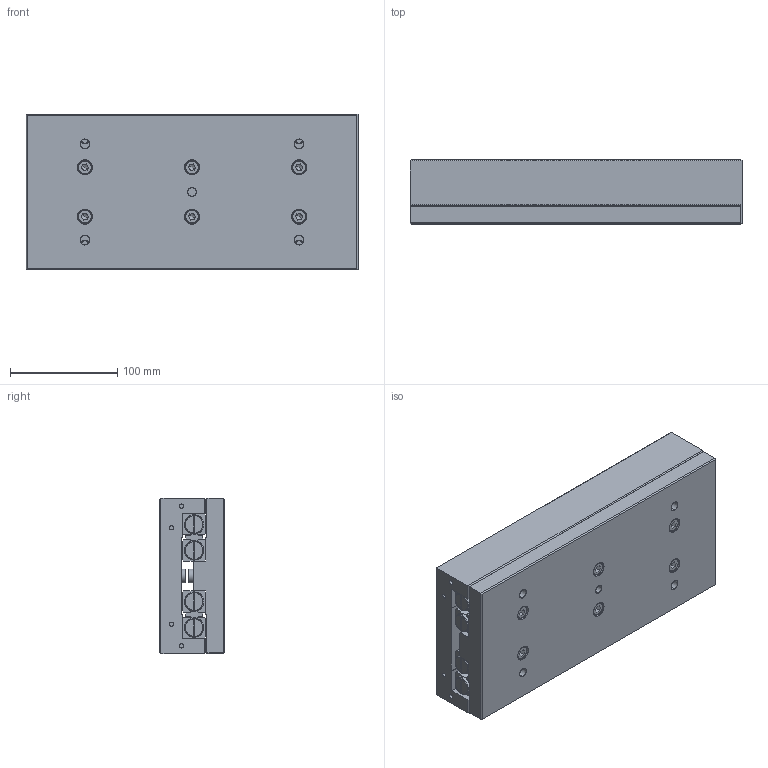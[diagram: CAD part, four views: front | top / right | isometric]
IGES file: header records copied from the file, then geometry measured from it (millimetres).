
Start section: SolidWorks IGES file using analytic representation for surfaces
Global section: file name: C:\Documents and Settings\IanO.IANOHOME\My Documents\Wix and Auto CAD Work\CAD Models\Parametric Models\Auto Models\L1020\L1020_IGES\L1020.145-310.igs; native system: SolidWorks 2009; preprocessor: SolidWorks 2009; author: IanO; date: 110922.163136; units: millimetre
Bounding box: 310 x 60 x 145 mm (x, y, z)
Surface area: 425827.6 mm2 (no closed solid volume)
Topology: 0 solids, 0 shells, 1192 faces, 17116 edges, 17086 vertices
Faces by surface type: bspline 770, revolution 422
